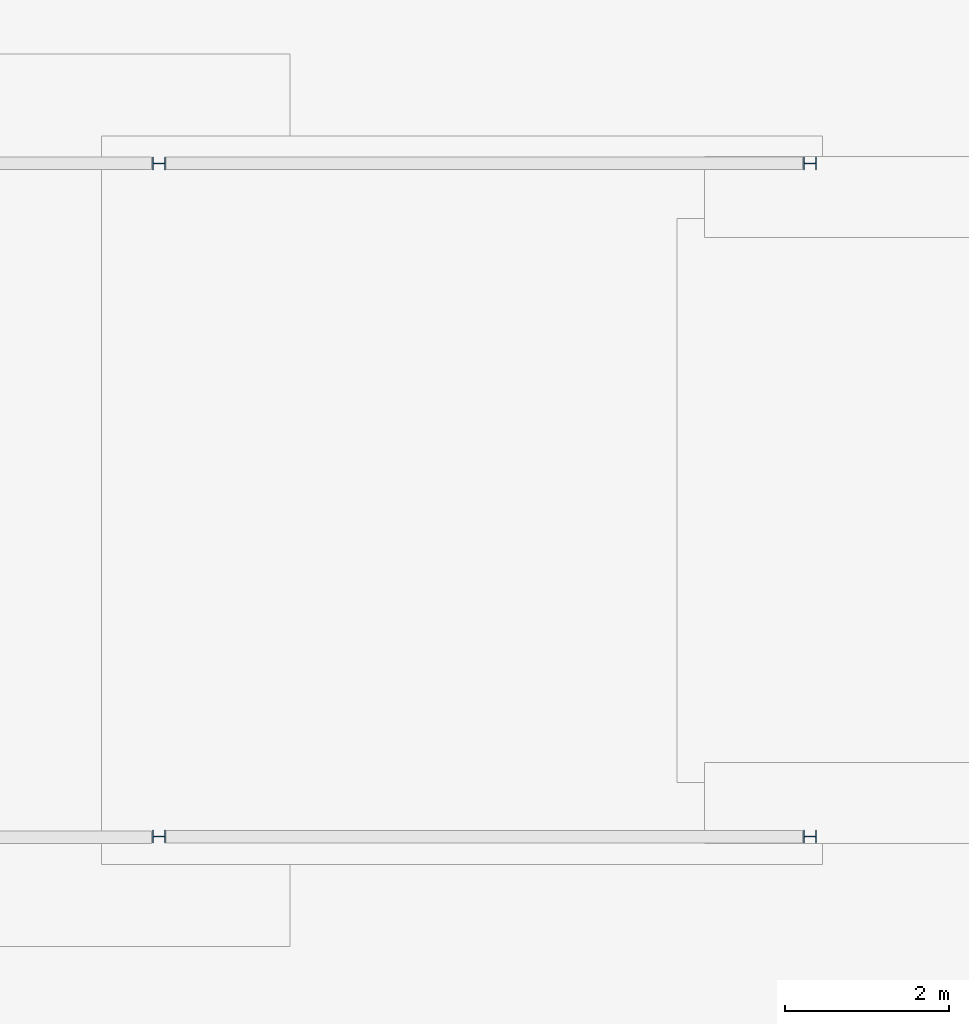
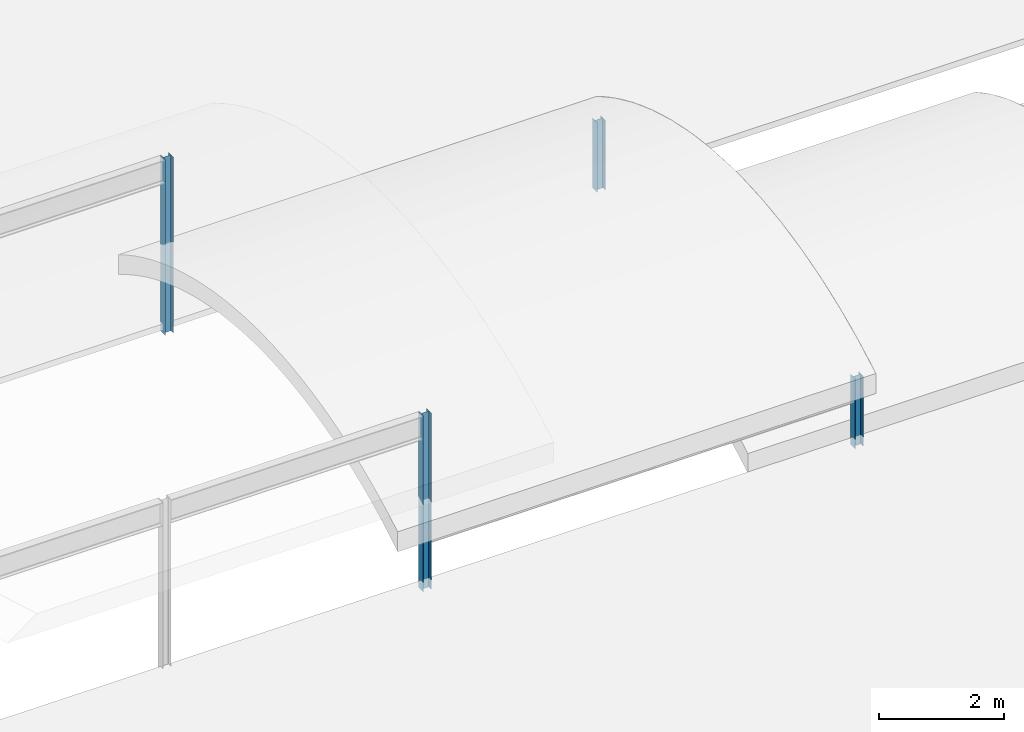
# One storey, part 2 of 5: 4 columns.
"""IFC2X3 building model written with IfcOpenShell, lengths in metres."""

from ifc_helpers import new_model, entity, si_unit, converted_unit, frame, frame_2d, origin, place, context, project, spatial, polyline, circle_curve, parameter, trimmed, segment, composite_curve, outline, extrude, source, transform, mapped, material, type_object, type_shapes, element, save


model = new_model("IFC2X3")

# Units and contexts
model_context = context("Model", 3, precision=1e-09, world=origin())
plan_context = context("Plan", 3, precision=1e-09, world=origin())
ifc_project = project(units=[si_unit("LENGTHUNIT", "METRE"), si_unit("AREAUNIT", "SQUARE_METRE"), si_unit("VOLUMEUNIT", "CUBIC_METRE"), converted_unit("PLANEANGLEUNIT", "DEGREE", entity("IfcRatioMeasure", 0.01745329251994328), si_unit("PLANEANGLEUNIT", "RADIAN"), dimensions=[0, 0, 0, 0, 0, 0, 0]), si_unit("TIMEUNIT", "SECOND")], contexts=[model_context, plan_context])

# Site, building, storey
site_placement = place(None, origin())
site = spatial("IfcSite", under=ifc_project, at=site_placement, Name="Default", CompositionType="ELEMENT")
building_placement = place(site_placement, origin())
building = spatial("IfcBuilding", under=site, at=building_placement, CompositionType="ELEMENT")
storey_placement = place(building_placement, frame((0.0, 0.0, 9.25000000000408)))
storey = spatial("IfcBuildingStorey", under=building, at=storey_placement, Name="Roof - Main", CompositionType="ELEMENT", Elevation=9.25000000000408)

# Columns
ifc_material = material(Name="Metal - Steel - 345 MPa")
column_type_1 = type_object("IfcColumnType", Name="W150X22.5", PredefinedType="COLUMN")
shared_shape_1 = source(origin(), model_context, "Body", "SweptSolid", [
    extrude(outline(composite_curve([segment(polyline([(-0.07599999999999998, -0.07599999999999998), (0.07599999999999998, -0.07599999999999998)]), True, "CONTINUOUS"), segment(polyline([(0.07599999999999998, -0.07599999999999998), (0.07599999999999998, -0.06939999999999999)]), True, "CONTINUOUS"), segment(polyline([(0.07599999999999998, -0.06939999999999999), (0.0143, -0.0694)]), True, "CONTINUOUS"), segment(trimmed(circle_curve(frame_2d((0.0143, -0.05799999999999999), x_axis=(-1.0, 0.0)), 0.0114), [parameter(4.071109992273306e-13)], [parameter(90.00000000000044)], True, "PARAMETER"), False, "CONTINUOUS"), segment(polyline([(0.002899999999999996, -0.05799999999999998), (0.002899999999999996, 0.05800000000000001)]), True, "CONTINUOUS"), segment(trimmed(circle_curve(frame_2d((0.0143, 0.058), x_axis=(-1.0, 0.0)), 0.0114), [parameter(270.0000000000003)], [parameter(4.071109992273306e-13)], True, "PARAMETER"), False, "CONTINUOUS"), segment(polyline([(0.01429999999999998, 0.06939999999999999), (0.07599999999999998, 0.06939999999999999)]), True, "CONTINUOUS"), segment(polyline([(0.07599999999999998, 0.06939999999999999), (0.07599999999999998, 0.07599999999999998)]), True, "CONTINUOUS"), segment(polyline([(0.07599999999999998, 0.07599999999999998), (-0.07599999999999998, 0.07599999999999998)]), True, "CONTINUOUS"), segment(polyline([(-0.07599999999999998, 0.07599999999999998), (-0.07599999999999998, 0.06939999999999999)]), True, "CONTINUOUS"), segment(polyline([(-0.07599999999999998, 0.06939999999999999), (-0.01429999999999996, 0.0694)]), True, "CONTINUOUS"), segment(trimmed(circle_curve(frame_2d((-0.0143, 0.058), x_axis=(-1.0, 0.0)), 0.0114), [parameter(180.0)], [parameter(270.0)], True, "PARAMETER"), False, "CONTINUOUS"), segment(polyline([(-0.002899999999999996, 0.05800000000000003), (-0.002899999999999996, -0.05799999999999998)]), True, "CONTINUOUS"), segment(trimmed(circle_curve(frame_2d((-0.0143, -0.05799999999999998), x_axis=(-1.0, 0.0)), 0.0114), [parameter(90.0000000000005)], [parameter(180.0000000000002)], True, "PARAMETER"), False, "CONTINUOUS"), segment(polyline([(-0.01430000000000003, -0.06939999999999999), (-0.07599999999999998, -0.06939999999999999)]), True, "CONTINUOUS"), segment(polyline([(-0.07599999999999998, -0.06939999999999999), (-0.07599999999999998, -0.07599999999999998)]), True, "CONTINUOUS")], self_intersect=False)), frame((0.0, 0.0, 9.186500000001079), z_axis=(0.0, 0.0, 1.0), x_axis=(-1.0, 0.0, 0.0)), (0.0, 0.0, 1.0), 3.4196),
])
type_shapes(column_type_1, [shared_shape_1])
column_1_placement = place(storey_placement, frame((-21.64904535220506, 35.80499999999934, -9.25000000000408), z_axis=(0.0, 0.0, 1.0), x_axis=(0.0, 1.0, 0.0)))
element("IfcColumn", 1, at=column_1_placement, inside=storey, type_object=column_type_1, material=ifc_material, Name="M_W-Wide Flange-Column:W150X22.5:W150X22.5", ObjectType="W150X22.5", context=model_context, shape_type="MappedRepresentation", body=[
    mapped(shared_shape_1, transform((0.0, 0.0, 0.0), scale=1.0)),
])
column_type_2 = type_object("IfcColumnType", Name="W150X22.5", PredefinedType="COLUMN")
shared_shape_2 = source(origin(), model_context, "Body", "SweptSolid", [
    extrude(outline(composite_curve([segment(polyline([(-0.07599999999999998, -0.07599999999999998), (0.07599999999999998, -0.07599999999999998)]), True, "CONTINUOUS"), segment(polyline([(0.07599999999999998, -0.07599999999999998), (0.07599999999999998, -0.06939999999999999)]), True, "CONTINUOUS"), segment(polyline([(0.07599999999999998, -0.06939999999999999), (0.0143, -0.0694)]), True, "CONTINUOUS"), segment(trimmed(circle_curve(frame_2d((0.0143, -0.05799999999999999), x_axis=(-1.0, 0.0)), 0.0114), [parameter(4.071109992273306e-13)], [parameter(90.00000000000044)], True, "PARAMETER"), False, "CONTINUOUS"), segment(polyline([(0.002899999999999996, -0.05799999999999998), (0.002899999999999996, 0.05800000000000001)]), True, "CONTINUOUS"), segment(trimmed(circle_curve(frame_2d((0.0143, 0.058), x_axis=(-1.0, 0.0)), 0.0114), [parameter(270.0000000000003)], [parameter(4.071109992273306e-13)], True, "PARAMETER"), False, "CONTINUOUS"), segment(polyline([(0.01429999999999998, 0.06939999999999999), (0.07599999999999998, 0.06939999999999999)]), True, "CONTINUOUS"), segment(polyline([(0.07599999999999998, 0.06939999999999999), (0.07599999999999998, 0.07599999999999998)]), True, "CONTINUOUS"), segment(polyline([(0.07599999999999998, 0.07599999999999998), (-0.07599999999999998, 0.07599999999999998)]), True, "CONTINUOUS"), segment(polyline([(-0.07599999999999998, 0.07599999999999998), (-0.07599999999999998, 0.06939999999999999)]), True, "CONTINUOUS"), segment(polyline([(-0.07599999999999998, 0.06939999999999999), (-0.01429999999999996, 0.0694)]), True, "CONTINUOUS"), segment(trimmed(circle_curve(frame_2d((-0.0143, 0.058), x_axis=(-1.0, 0.0)), 0.0114), [parameter(180.0)], [parameter(270.0)], True, "PARAMETER"), False, "CONTINUOUS"), segment(polyline([(-0.002899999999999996, 0.05800000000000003), (-0.002899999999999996, -0.05799999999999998)]), True, "CONTINUOUS"), segment(trimmed(circle_curve(frame_2d((-0.0143, -0.05799999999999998), x_axis=(-1.0, 0.0)), 0.0114), [parameter(90.0000000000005)], [parameter(180.0000000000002)], True, "PARAMETER"), False, "CONTINUOUS"), segment(polyline([(-0.01430000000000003, -0.06939999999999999), (-0.07599999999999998, -0.06939999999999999)]), True, "CONTINUOUS"), segment(polyline([(-0.07599999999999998, -0.06939999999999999), (-0.07599999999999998, -0.07599999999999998)]), True, "CONTINUOUS")], self_intersect=False)), frame((0.0, 0.0, 9.186500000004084), z_axis=(0.0, 0.0, 1.0), x_axis=(-1.0, 0.0, 0.0)), (0.0, 0.0, 1.0), 1.3589),
])
type_shapes(column_type_2, [shared_shape_2])
column_2_placement = place(storey_placement, frame((-13.70014406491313, 35.8049999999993, -9.25000000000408), z_axis=(0.0, 0.0, 1.0), x_axis=(0.0, 1.0, 0.0)))
element("IfcColumn", 2, at=column_2_placement, inside=storey, type_object=column_type_2, material=ifc_material, Name="M_W-Wide Flange-Column:W150X22.5:W150X22.5", ObjectType="W150X22.5", context=model_context, shape_type="MappedRepresentation", body=[
    mapped(shared_shape_2, transform((0.0, 0.0, 0.0), scale=1.0)),
])
column_type_3 = type_object("IfcColumnType", Name="W150X22.5", PredefinedType="COLUMN")
shared_shape_3 = source(origin(), model_context, "Body", "SweptSolid", [
    extrude(outline(composite_curve([segment(polyline([(-0.07599999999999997, -0.07599999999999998), (-0.06939999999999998, -0.07599999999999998)]), True, "CONTINUOUS"), segment(polyline([(-0.06939999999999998, -0.07599999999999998), (-0.06939999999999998, -0.01430000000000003)]), True, "CONTINUOUS"), segment(trimmed(circle_curve(frame_2d((-0.05799999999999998, -0.01430000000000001), x_axis=(0.0, -1.0)), 0.0114), [parameter(179.9999999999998)], [parameter(269.9999999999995)], True, "PARAMETER"), False, "CONTINUOUS"), segment(polyline([(-0.05799999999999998, -0.002899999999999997), (0.05800000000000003, -0.002899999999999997)]), True, "CONTINUOUS"), segment(trimmed(circle_curve(frame_2d((0.058, -0.01430000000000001), x_axis=(0.0, -1.0)), 0.0114), [parameter(89.99999999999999)], [parameter(180.0)], True, "PARAMETER"), False, "CONTINUOUS"), segment(polyline([(0.06940000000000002, -0.01429999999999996), (0.0694, -0.07599999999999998)]), True, "CONTINUOUS"), segment(polyline([(0.0694, -0.07599999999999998), (0.076, -0.07599999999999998)]), True, "CONTINUOUS"), segment(polyline([(0.076, -0.07599999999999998), (0.076, 0.07599999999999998)]), True, "CONTINUOUS"), segment(polyline([(0.076, 0.07599999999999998), (0.0694, 0.07599999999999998)]), True, "CONTINUOUS"), segment(polyline([(0.0694, 0.07599999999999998), (0.0694, 0.01429999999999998)]), True, "CONTINUOUS"), segment(trimmed(circle_curve(frame_2d((0.058, 0.0143), x_axis=(0.0, -1.0)), 0.0114), [parameter(359.9999999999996)], [parameter(89.99999999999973)], True, "PARAMETER"), False, "CONTINUOUS"), segment(polyline([(0.058, 0.002899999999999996), (-0.05799999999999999, 0.002899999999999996)]), True, "CONTINUOUS"), segment(trimmed(circle_curve(frame_2d((-0.05799999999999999, 0.0143), x_axis=(0.0, -1.0)), 0.0114), [parameter(269.9999999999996)], [parameter(359.9999999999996)], True, "PARAMETER"), False, "CONTINUOUS"), segment(polyline([(-0.06939999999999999, 0.0143), (-0.06939999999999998, 0.07599999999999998)]), True, "CONTINUOUS"), segment(polyline([(-0.06939999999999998, 0.07599999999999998), (-0.07599999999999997, 0.07599999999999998)]), True, "CONTINUOUS"), segment(polyline([(-0.07599999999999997, 0.07599999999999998), (-0.07599999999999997, -0.07599999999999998)]), True, "CONTINUOUS")], self_intersect=False)), frame((0.0, 0.0, 9.186500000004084), z_axis=(0.0, 0.0, 1.0), x_axis=(0.0, 1.0, 0.0)), (0.0, 0.0, 1.0), 1.3589),
])
type_shapes(column_type_3, [shared_shape_3])
column_3_placement = place(storey_placement, frame((-13.70014406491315, 27.5850000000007, -9.25000000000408), z_axis=(0.0, 0.0, 1.0), x_axis=(0.0, -1.0, 0.0)))
element("IfcColumn", 3, at=column_3_placement, inside=storey, type_object=column_type_3, material=ifc_material, Name="M_W-Wide Flange-Column:W150X22.5:W150X22.5", ObjectType="W150X22.5", context=model_context, shape_type="MappedRepresentation", body=[
    mapped(shared_shape_3, transform((0.0, 0.0, 0.0), scale=1.0)),
])
column_type_4 = type_object("IfcColumnType", Name="W150X22.5", PredefinedType="COLUMN")
shared_shape_4 = source(origin(), model_context, "Body", "SweptSolid", [
    extrude(outline(composite_curve([segment(polyline([(-0.07599999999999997, -0.07599999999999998), (-0.06939999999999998, -0.07599999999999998)]), True, "CONTINUOUS"), segment(polyline([(-0.06939999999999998, -0.07599999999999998), (-0.06939999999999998, -0.01430000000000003)]), True, "CONTINUOUS"), segment(trimmed(circle_curve(frame_2d((-0.05799999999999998, -0.01430000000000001), x_axis=(0.0, -1.0)), 0.0114), [parameter(179.9999999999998)], [parameter(269.9999999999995)], True, "PARAMETER"), False, "CONTINUOUS"), segment(polyline([(-0.05799999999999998, -0.002899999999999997), (0.05800000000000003, -0.002899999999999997)]), True, "CONTINUOUS"), segment(trimmed(circle_curve(frame_2d((0.058, -0.01430000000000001), x_axis=(0.0, -1.0)), 0.0114), [parameter(89.99999999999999)], [parameter(180.0)], True, "PARAMETER"), False, "CONTINUOUS"), segment(polyline([(0.06940000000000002, -0.01429999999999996), (0.0694, -0.07599999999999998)]), True, "CONTINUOUS"), segment(polyline([(0.0694, -0.07599999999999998), (0.076, -0.07599999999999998)]), True, "CONTINUOUS"), segment(polyline([(0.076, -0.07599999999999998), (0.076, 0.07599999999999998)]), True, "CONTINUOUS"), segment(polyline([(0.076, 0.07599999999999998), (0.0694, 0.07599999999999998)]), True, "CONTINUOUS"), segment(polyline([(0.0694, 0.07599999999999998), (0.0694, 0.01429999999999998)]), True, "CONTINUOUS"), segment(trimmed(circle_curve(frame_2d((0.058, 0.0143), x_axis=(0.0, -1.0)), 0.0114), [parameter(359.9999999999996)], [parameter(89.99999999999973)], True, "PARAMETER"), False, "CONTINUOUS"), segment(polyline([(0.058, 0.002899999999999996), (-0.05799999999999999, 0.002899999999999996)]), True, "CONTINUOUS"), segment(trimmed(circle_curve(frame_2d((-0.05799999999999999, 0.0143), x_axis=(0.0, -1.0)), 0.0114), [parameter(269.9999999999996)], [parameter(359.9999999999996)], True, "PARAMETER"), False, "CONTINUOUS"), segment(polyline([(-0.06939999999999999, 0.0143), (-0.06939999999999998, 0.07599999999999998)]), True, "CONTINUOUS"), segment(polyline([(-0.06939999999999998, 0.07599999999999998), (-0.07599999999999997, 0.07599999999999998)]), True, "CONTINUOUS"), segment(polyline([(-0.07599999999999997, 0.07599999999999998), (-0.07599999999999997, -0.07599999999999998)]), True, "CONTINUOUS")], self_intersect=False)), frame((0.0, 0.0, 9.186500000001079), z_axis=(0.0, 0.0, 1.0), x_axis=(0.0, 1.0, 0.0)), (0.0, 0.0, 1.0), 3.4196),
])
type_shapes(column_type_4, [shared_shape_4])
column_4_placement = place(storey_placement, frame((-21.64904535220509, 27.58500000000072, -9.25000000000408), z_axis=(0.0, 0.0, 1.0), x_axis=(0.0, -1.0, 0.0)))
element("IfcColumn", 4, at=column_4_placement, inside=storey, type_object=column_type_4, material=ifc_material, Name="M_W-Wide Flange-Column:W150X22.5:W150X22.5", ObjectType="W150X22.5", context=model_context, shape_type="MappedRepresentation", body=[
    mapped(shared_shape_4, transform((0.0, 0.0, 0.0), scale=1.0)),
])

save(model, "model.ifc")
